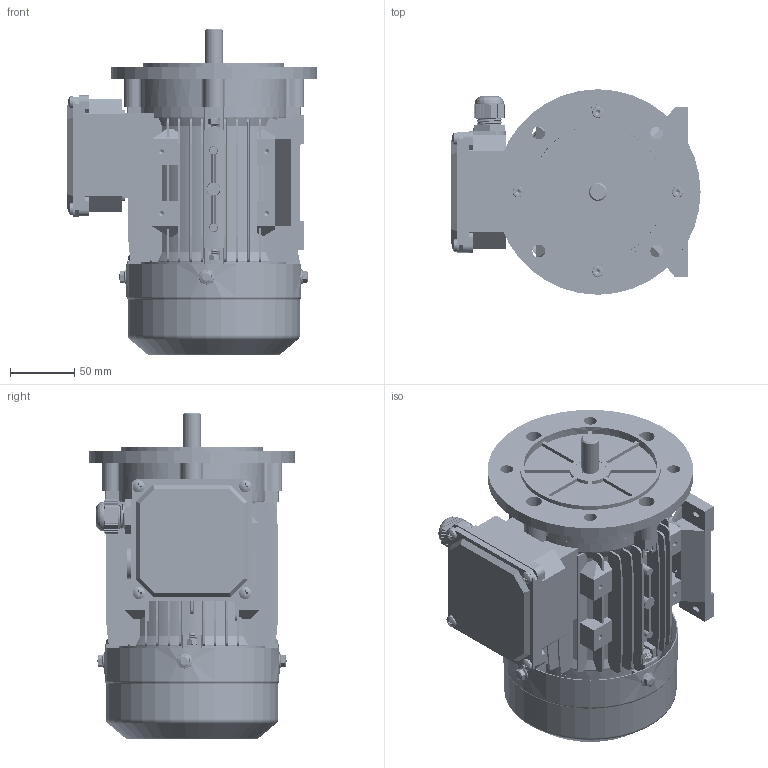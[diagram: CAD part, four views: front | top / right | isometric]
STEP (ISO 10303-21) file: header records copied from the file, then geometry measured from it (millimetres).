
FILE_DESCRIPTION (( 'STEP AP203' ), '1' );
FILE_NAME ('MS71L B35 3D蚾饜芞.STEP', '2024-06-01T08:49:49', ( 'User' ), ( 'China' ), 'SwSTEP 2.0', 'SolidWorks 2018', '' );
FILE_SCHEMA (( 'CONFIG_CONTROL_DESIGN' ));
Length unit declared in the file: millimetre
Products named in the file (20): MS63-71諉盄碟裔; 蚐猾25X14X4; 8.034.07101MS71 L儂褲; MS63-71諉盄碟菁釱; hexagon socket head cap screws gb_GB_FASTENER_SCREWS_HSHCS M5X25-S; 8.013.07102MS71綴傷裔; 8.014.07102MS71B5傷裔; spring lock washers--normal type gb_GB_FASTENER_WASHER_SW 5; 8.200.07101MS71 L蛌粣; MS71L  B35  3D蚾饜芞; hex nuts, style 1-grades ab gb_GB_FASTENER_NUT_SNAB1 M5-S; 8.043.07101MS71菁褐; hexagon socket head cap screws gb_GB_FASTENER_SCREWS_HSHCS M6X20-S; cross recessed pan head screws gb_GB_CROSS_SCREWS_TYPE1 M5X8-8  H type-C; spring lock washers--normal type gb_GB_FASTENER_WASHER_SW 6; 蹟杶郋M20X1.5; 8.306.07101MS71邧脯瑞欶; 蹟簸M20X1.5; hex flange bolts-heavy grade b gb_GB_FASTENER_BOLT_HFBB M5X10-C; 黑芛20X1.5
Assembly tree (52 placements, depth 2):
  MS71L  B35  3D蚾饜芞
    8.034.07101MS71 L儂褲
    8.013.07102MS71綴傷裔
    8.200.07101MS71 L蛌粣
    8.043.07101MS71菁褐  x2
    cross recessed pan head screws gb_GB_CROSS_SCREWS_TYPE1 M5X8-8  H type-C  x8
    蹟杶郋M20X1.5
    蹟簸M20X1.5
    黑芛20X1.5
    蚐猾25X14X4
    hexagon socket head cap screws gb_GB_FASTENER_SCREWS_HSHCS M5X25-S  x8
    spring lock washers--normal type gb_GB_FASTENER_WASHER_SW 5  x4
    hex nuts, style 1-grades ab gb_GB_FASTENER_NUT_SNAB1 M5-S  x7
    hexagon socket head cap screws gb_GB_FASTENER_SCREWS_HSHCS M6X20-S  x4
    spring lock washers--normal type gb_GB_FASTENER_WASHER_SW 6  x4
    8.306.07101MS71邧脯瑞欶
    hex flange bolts-heavy grade b gb_GB_FASTENER_BOLT_HFBB M5X10-C  x4
    MS63-71諉盄碟裔
    MS63-71諉盄碟菁釱
    8.014.07102MS71B5傷裔
Bounding box: 194 x 160 x 253.83 mm (x, y, z)
Volume: 755076.6 mm3; surface area: 532036.5 mm2
Topology: 52 solids, 59 shells, 7227 faces, 17194 edges, 10158 vertices
Faces by surface type: cone 2584, plane 2394, cylinder 1973, bspline 170, torus 90, sphere 16
Entity records: 134081 total; most frequent: CARTESIAN_POINT 42802, ORIENTED_EDGE 19280, DIRECTION 17186, EDGE_CURVE 9640, VERTEX_POINT 6184, AXIS2_PLACEMENT_3D 5737, LINE 5712, VECTOR 5712
